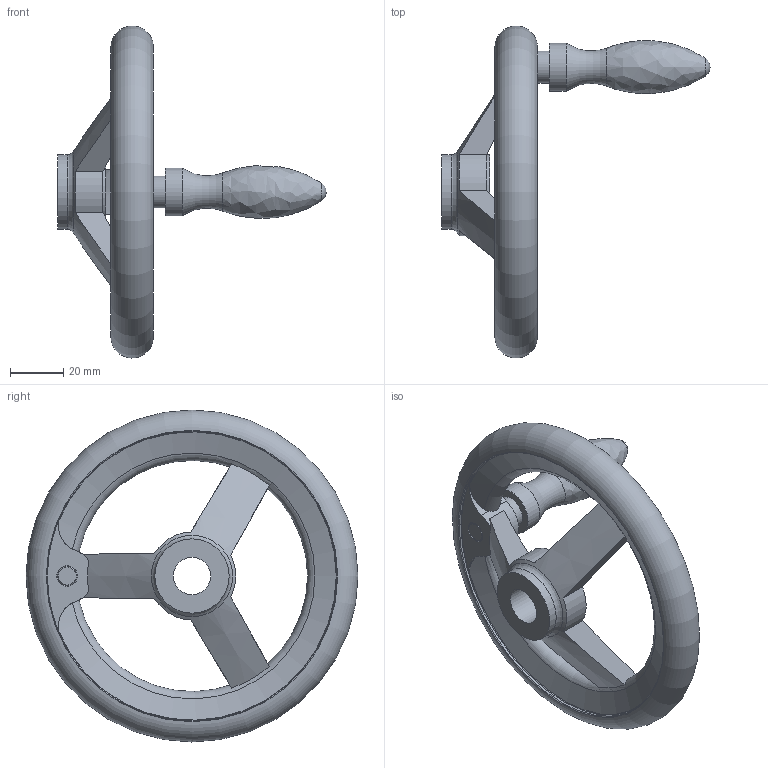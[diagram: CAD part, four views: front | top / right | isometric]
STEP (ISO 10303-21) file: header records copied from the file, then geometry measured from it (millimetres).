
FILE_DESCRIPTION( ( 'STEP AP203' ), '1' );
FILE_NAME( 'C:/Temp/Ganter_Step_05_03_2020/data/1_3/din_950/din_950_b/din_950_b_d/Handwheel DIN 950-AL-125-B14-D.stp', '2020-03-05T10:29:38', ( 'License CC BY-ND 4.0' ), ( 'CADENAS' ), ' ', 'PARTsolutions', ' ' );
FILE_SCHEMA( ( 'CONFIG_CONTROL_DESIGN' ) );
Length unit declared in the file: millimetre
Products named in the file (1): _Handwheel DIN 950-AL-125-B14-D
Bounding box: 101 x 124.99 x 124.99 mm (x, y, z)
Volume: 105807.7 mm3; surface area: 30057.1 mm2
Topology: 1 solids, 1 shells, 46 faces, 125 edges, 79 vertices
Faces by surface type: cylinder 15, plane 12, torus 11, cone 6, bspline 1, sphere 1
Full cylindrical faces by diameter (mm): 12 x1, 14 x1, 18 x1, 28 x2, 109 x2
Entity records: 1683 total; most frequent: CARTESIAN_POINT 618, DIRECTION 202, ORIENTED_EDGE 196, EDGE_CURVE 98, AXIS2_PLACEMENT_3D 95, VERTEX_POINT 75, EDGE_LOOP 73, FACE_OUTER_BOUND 62
